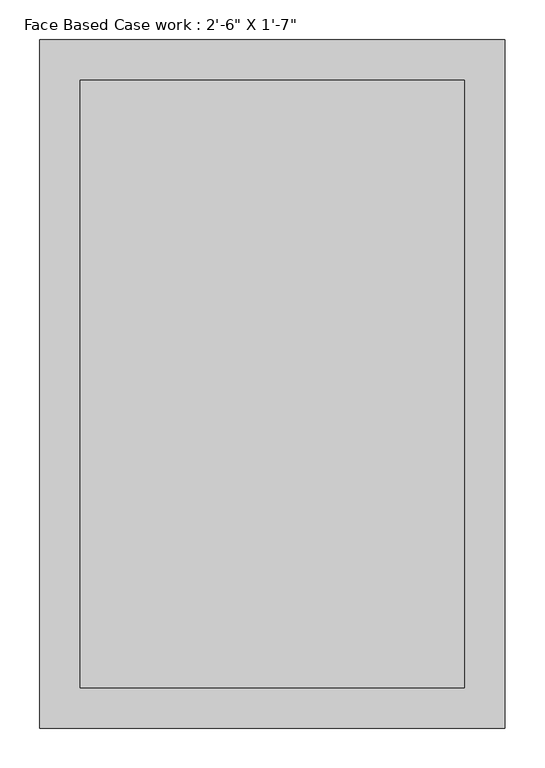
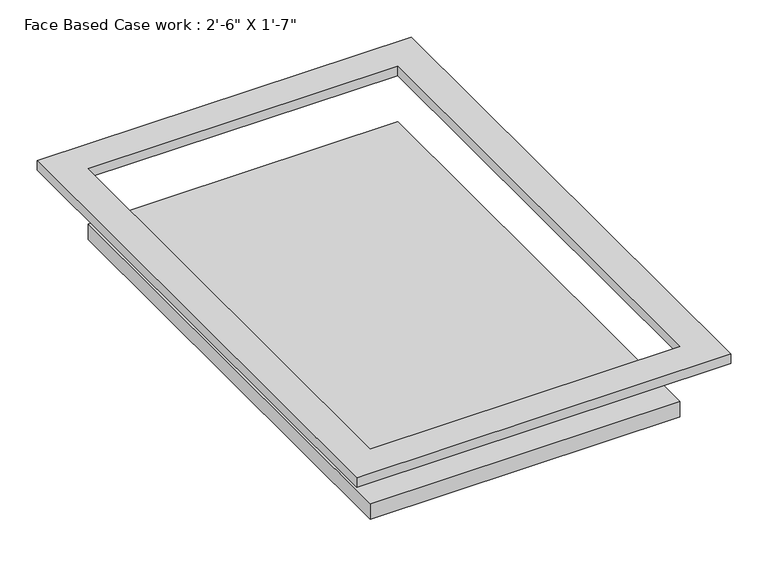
"""IFC4 building model written with IfcOpenShell, lengths in millimetres: furniture geometry."""

from ifc_helpers import new_model, si_unit, frame, origin, origin_with_axes, place, context, project, spatial, polyline, outline, extrude, source, transform, mapped, element, save


def furniture_08fd158a(model_context):
    return source(origin(), model_context, "Body", "SweptSolid", [
        extrude(outline(polyline([(241.3, 381.0), (241.3, -381.0), (-241.3, -381.0), (-241.3, 381.0), (241.3, 381.0)])), frame((0.0, 0.0, -101.6), z_axis=(0.0, 0.0, 1.0), x_axis=(1.0, 0.0, 0.0)), (0.0, 0.0, 1.0), 25.4),
        extrude(outline(polyline([(292.1, 431.8), (292.1, -431.8), (-292.1, -431.8), (-292.1, 431.8), (292.1, 431.8)]), holes=[polyline([(241.3, 381.0), (-241.3, 381.0), (-241.3, -381.0), (241.3, -381.0), (241.3, 381.0)])]), origin_with_axes(), (0.0, 0.0, 1.0), 15.0),
    ])


if __name__ == "__main__":
    model = new_model("IFC4")
    model_context = context("Model", 3, world=origin())
    ifc_project = project(units=[si_unit("LENGTHUNIT", "METRE", prefix="MILLI")], contexts=[model_context])
    site = spatial("IfcSite", under=ifc_project)
    building = spatial("IfcBuilding", under=site)
    placement = place(None, origin())
    furniture_shape = furniture_08fd158a(model_context)
    element("IfcFurniture", 1, ObjectType="Face Based Case work : 2'-6\" X 1'-7\"", at=placement, inside=building, context=model_context, shape_type="MappedRepresentation", body=[
        mapped(furniture_shape, transform((0.0, 0.0, 0.0), x_axis=(1.0, 0.0, 0.0), y_axis=(0.0, 1.0, 0.0), z_axis=(0.0, 0.0, 1.0))),
    ])
    save(model, "model.ifc")
